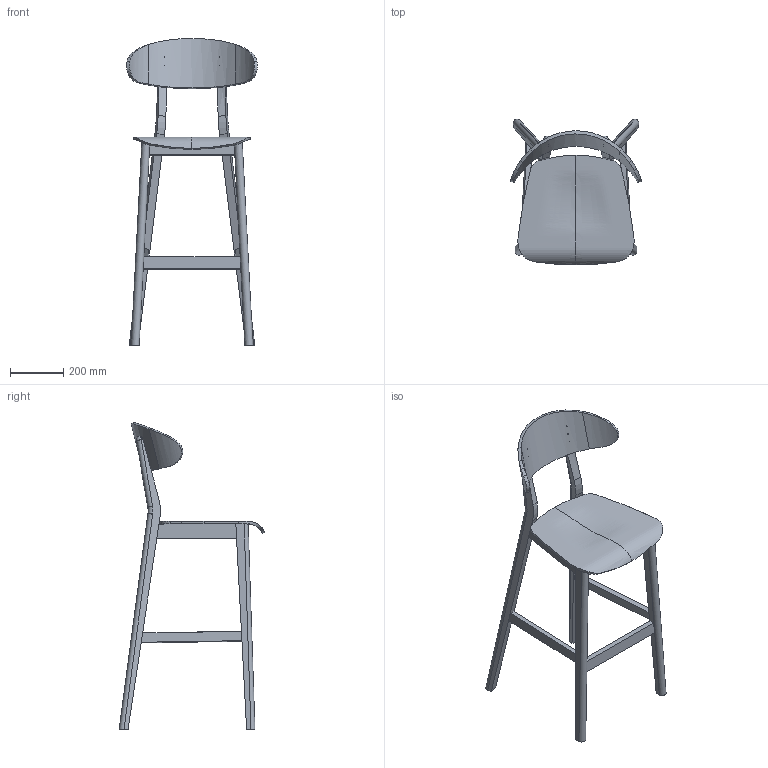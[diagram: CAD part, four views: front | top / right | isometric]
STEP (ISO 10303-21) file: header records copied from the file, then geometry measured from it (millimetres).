
FILE_DESCRIPTION(/* description */ (''),/* implementation_level */ '2;1');
FILE_NAME(/* name */ 'C:\Users\GG\Desktop\qqq\H-4230.stp',/* time_stamp */ '2024-02-26T10:30:55+01:00',/* author */ ('GG'),/* organization */ (''),/* preprocessor_version */ 'ST-DEVELOPER v19',/* originating_system */ 'Autodesk Inventor 2023',/* authorisation */ '');
FILE_SCHEMA (('AUTOMOTIVE_DESIGN { 1 0 10303 214 3 1 1 }'));
Length unit declared in the file: millimetre
Products named in the file (15): 4230 LOF hoker; podz przedni; oskrzynia przednia; noga przednia prawa_; łączyna przednia; noga przednia lewa MIR; LOF_hocker_SR; oskrzynia boczna prawa; LOF_hocker_SR_1; LOF_hocker_SR_2; łączyna boczna prawa; oskrzynia boczna lewa MIR; noga tylna lewa MIR; łączyna boczna lewa MIR; oskrzynia tylna
Assembly tree (14 placements, depth 3):
  4230 LOF hoker
    podz przedni
      oskrzynia przednia
      noga przednia prawa_
      łączyna przednia
      noga przednia lewa MIR
    LOF_hocker_SR
    oskrzynia boczna prawa
    LOF_hocker_SR_1
    LOF_hocker_SR_2
    łączyna boczna prawa
    oskrzynia boczna lewa MIR
    noga tylna lewa MIR
    łączyna boczna lewa MIR
    oskrzynia tylna
Bounding box: 489.26 x 545.68 x 1148.51 mm (x, y, z)
Volume: 8640536.2 mm3; surface area: 1354667.5 mm2
Topology: 13 solids, 13 shells, 353 faces, 824 edges, 535 vertices
Faces by surface type: plane 183, cylinder 109, bspline 33, cone 24, sphere 2, torus 2
Full cylindrical faces by diameter (mm): 6 x17, 10 x8
Entity records: 123478 total; most frequent: CARTESIAN_POINT 114827, ORIENTED_EDGE 1648, DIRECTION 1612, EDGE_CURVE 824, AXIS2_PLACEMENT_3D 573, VERTEX_POINT 535, LINE 466, VECTOR 466
